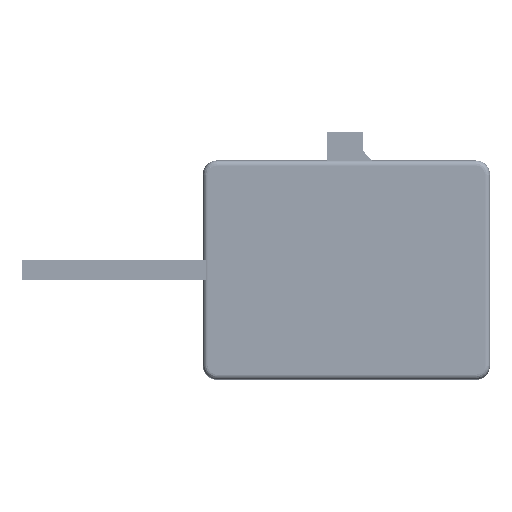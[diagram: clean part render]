
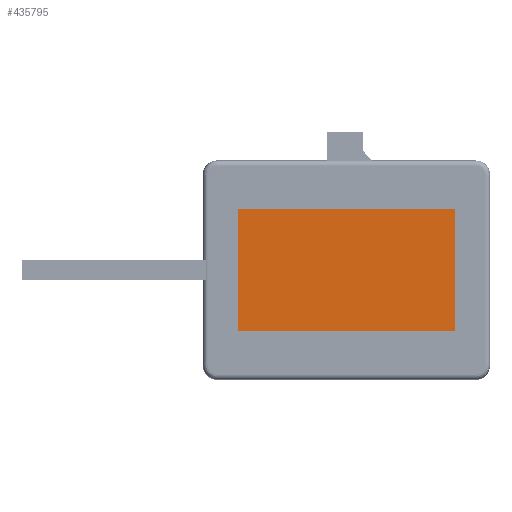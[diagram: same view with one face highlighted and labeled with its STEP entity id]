
A CAD part, top view. The second image highlights one B-rep face of the part: STEP entity #435795.
In plain terms, the highlighted planar face has unit normal (0, 0, 1).
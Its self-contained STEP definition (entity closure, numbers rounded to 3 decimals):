
#28362 = DIRECTION ( 'NONE',  ( -1., 0., 0. ) ) ;
#47262 = AXIS2_PLACEMENT_3D ( 'NONE', #464050, #343506, #131733 ) ;
#61309 = VERTEX_POINT ( 'NONE', #402245 ) ;
#62245 = EDGE_CURVE ( 'NONE', #61309, #201664, #322429, .T. ) ;
#100888 = ORIENTED_EDGE ( 'NONE', *, *, #213972, .T. ) ;
#112429 = DIRECTION ( 'NONE',  ( 1., 0., 0. ) ) ;
#124962 = ORIENTED_EDGE ( 'NONE', *, *, #62245, .T. ) ;
#131733 = DIRECTION ( 'NONE',  ( 1., 0., 0. ) ) ;
#164927 = EDGE_CURVE ( 'NONE', #267153, #298603, #452234, .T. ) ;
#177266 = CARTESIAN_POINT ( 'NONE',  ( -77.369, 43.523, -0.001 ) ) ;
#182247 = CARTESIAN_POINT ( 'NONE',  ( 77.369, -43.523, -0.001 ) ) ;
#201664 = VERTEX_POINT ( 'NONE', #268734 ) ;
#204179 = LINE ( 'NONE', #236734, #504986 ) ;
#213972 = EDGE_CURVE ( 'NONE', #201664, #267153, #204179, .T. ) ;
#215784 = ORIENTED_EDGE ( 'NONE', *, *, #406412, .T. ) ;
#231645 = VECTOR ( 'NONE', #112429, 1000. ) ;
#236734 = CARTESIAN_POINT ( 'NONE',  ( 77.369, 43.523, -0.001 ) ) ;
#267153 = VERTEX_POINT ( 'NONE', #398870 ) ;
#268734 = CARTESIAN_POINT ( 'NONE',  ( 77.369, 43.523, -0.001 ) ) ;
#298603 = VERTEX_POINT ( 'NONE', #530776 ) ;
#322429 = LINE ( 'NONE', #182247, #479097 ) ;
#322453 = CARTESIAN_POINT ( 'NONE',  ( -77.369, -43.523, -0.001 ) ) ;
#342836 = LINE ( 'NONE', #322453, #231645 ) ;
#343506 = DIRECTION ( 'NONE',  ( 0., 0., 1. ) ) ;
#361818 = ORIENTED_EDGE ( 'NONE', *, *, #164927, .T. ) ;
#364423 = EDGE_LOOP ( 'NONE', ( #124962, #100888, #361818, #215784 ) ) ;
#380436 = VECTOR ( 'NONE', #474774, 1000. ) ;
#397555 = DIRECTION ( 'NONE',  ( 0., 1., 0. ) ) ;
#398870 = CARTESIAN_POINT ( 'NONE',  ( -77.369, 43.523, -0.001 ) ) ;
#402245 = CARTESIAN_POINT ( 'NONE',  ( 77.369, -43.523, -0.001 ) ) ;
#406412 = EDGE_CURVE ( 'NONE', #298603, #61309, #342836, .T. ) ;
#435795 = ADVANCED_FACE ( 'NONE', ( #482894 ), #506052, .T. ) ;
#452234 = LINE ( 'NONE', #177266, #380436 ) ;
#464050 = CARTESIAN_POINT ( 'NONE',  ( 0., 0., -0.001 ) ) ;
#474774 = DIRECTION ( 'NONE',  ( 0., -1., 0. ) ) ;
#479097 = VECTOR ( 'NONE', #397555, 1000. ) ;
#482894 = FACE_OUTER_BOUND ( 'NONE', #364423, .T. ) ;
#504986 = VECTOR ( 'NONE', #28362, 1000. ) ;
#506052 = PLANE ( 'NONE',  #47262 ) ;
#530776 = CARTESIAN_POINT ( 'NONE',  ( -77.369, -43.523, -0.001 ) ) ;
